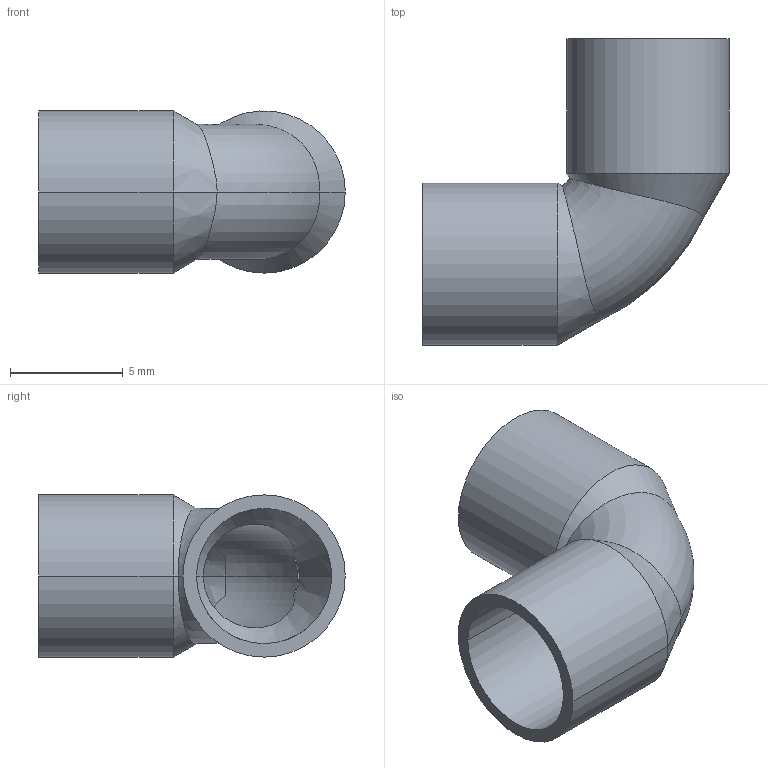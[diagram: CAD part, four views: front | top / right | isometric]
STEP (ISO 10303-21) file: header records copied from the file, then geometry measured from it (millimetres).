
FILE_DESCRIPTION((''),'2;1');
FILE_NAME('G:\SANHA-TERNAT\Technik\Deckel\UUU\Producttek\150906\150906(0).stp','2007-07-25T13:32:36',('vdvijverd'),(''),'Autodesk Inventor 8','Autodesk Inventor 8','');
FILE_SCHEMA(('AUTOMOTIVE_DESIGN { 1 0 10303 214 1 1 1 1 }'));
Length unit declared in the file: millimetre
Products named in the file (1): 150906(0)
Bounding box: 13.6 x 13.6 x 7.2 mm (x, y, z)
Volume: 218.8 mm3; surface area: 734.4 mm2
Topology: 1 solids, 1 shells, 24 faces, 60 edges, 38 vertices
Faces by surface type: bspline 10, torus 4, cylinder 4, cone 4, plane 2
Entity records: 1027 total; most frequent: CARTESIAN_POINT 469, ORIENTED_EDGE 120, DIRECTION 102, EDGE_CURVE 60, AXIS2_PLACEMENT_3D 43, VERTEX_POINT 38, CIRCLE 28, EDGE_LOOP 26
